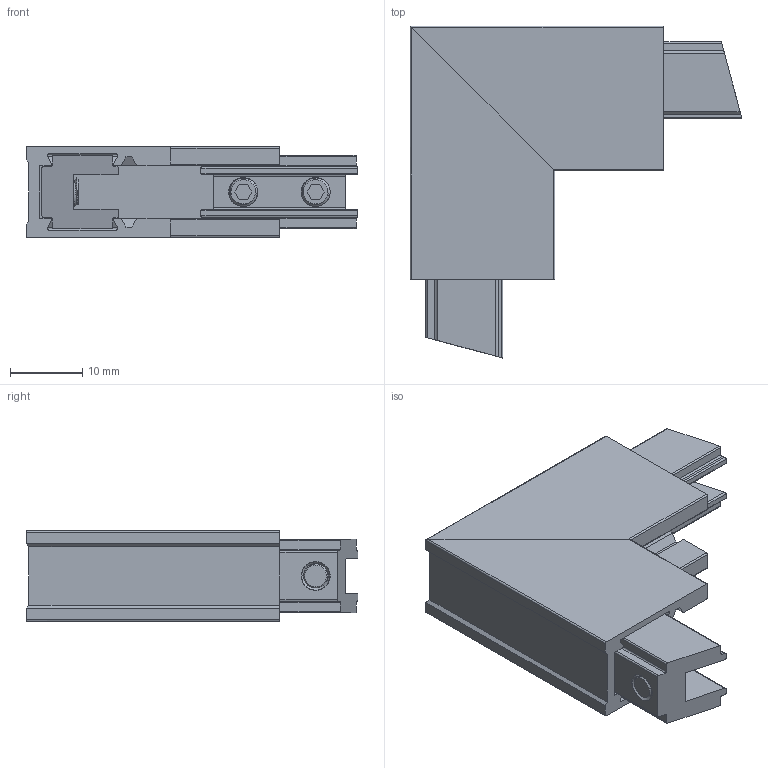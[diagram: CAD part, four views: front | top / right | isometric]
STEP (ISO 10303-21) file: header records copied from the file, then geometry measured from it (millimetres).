
FILE_DESCRIPTION((''),'2;1');
FILE_NAME('KC-0006-90_ASM','2025-08-01T15:08:13',('YF-06'),(''),'CREO PARAMETRIC BY PTC INC, 2022073','CREO PARAMETRIC BY PTC INC, 2022073','');
FILE_SCHEMA(('CONFIG_CONTROL_DESIGN','SHAPE_APPEARANCE_LAYERS_GROUPS'));
Length unit declared in the file: millimetre
Products named in the file (4): KC-0006-0080; KC-0006-0014; M4_5; KC-0006-90_ASM
Assembly tree (8 placements, depth 2):
  KC-0006-90_ASM
    KC-0006-0080  x2
    KC-0006-0014  x2
    M4_5  x4
Bounding box: 45.84 x 45.84 x 12.5 mm (x, y, z)
Volume: 6799.5 mm3; surface area: 9301.7 mm2
Topology: 8 solids, 12 shells, 308 faces, 836 edges, 548 vertices
Faces by surface type: plane 132, cylinder 124, cone 28, bspline 24
Entity records: 5272 total; most frequent: CARTESIAN_POINT 1813, ORIENTED_EDGE 672, DIRECTION 563, EDGE_CURVE 340, VERTEX_POINT 223, VECTOR 213, LINE 213, AXIS2_PLACEMENT_3D 175
